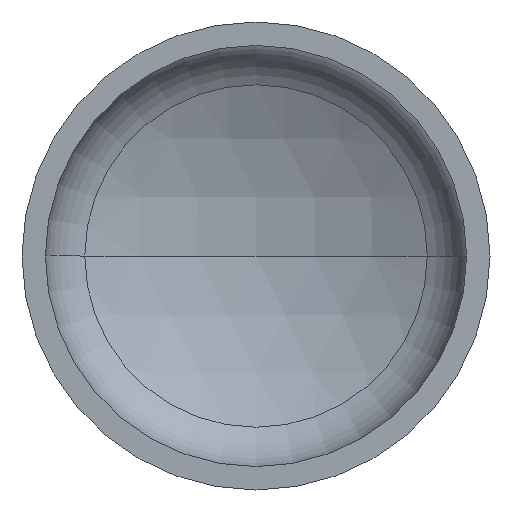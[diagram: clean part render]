
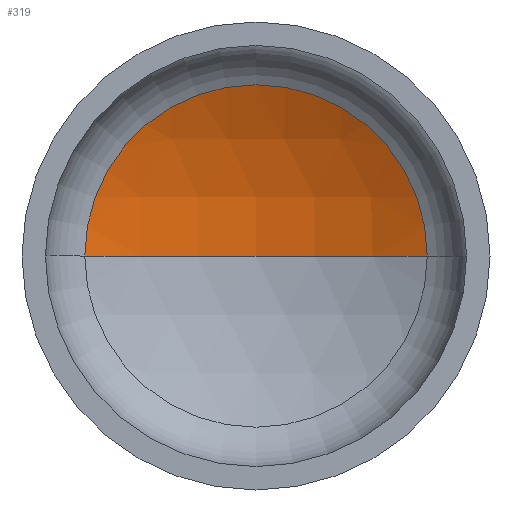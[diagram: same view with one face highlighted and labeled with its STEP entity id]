
A CAD part, front view. The second image highlights one B-rep face of the part: STEP entity #319.
In plain terms, the highlighted spherical face has radius 1600 mm.
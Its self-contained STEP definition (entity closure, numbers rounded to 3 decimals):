
#2 = AXIS2_PLACEMENT_3D ( 'NONE', #261, #167, #365 ) ;
#3 = VERTEX_POINT ( 'NONE', #256 ) ;
#11 = DIRECTION ( 'NONE',  ( -1., 0., 0. ) ) ;
#18 = EDGE_LOOP ( 'NONE', ( #79, #42, #28 ) ) ;
#27 = DIRECTION ( 'NONE',  ( 0., 0., -1. ) ) ;
#28 = ORIENTED_EDGE ( 'NONE', *, *, #118, .T. ) ;
#36 = AXIS2_PLACEMENT_3D ( 'NONE', #298, #98, #156 ) ;
#42 = ORIENTED_EDGE ( 'NONE', *, *, #122, .T. ) ;
#44 = AXIS2_PLACEMENT_3D ( 'NONE', #407, #27, #11 ) ;
#48 = AXIS2_PLACEMENT_3D ( 'NONE', #366, #233, #385 ) ;
#69 = SPHERICAL_SURFACE ( 'NONE', #2, 1600. ) ;
#79 = ORIENTED_EDGE ( 'NONE', *, *, #124, .F. ) ;
#98 = DIRECTION ( 'NONE',  ( 0., 0., 1. ) ) ;
#106 = VERTEX_POINT ( 'NONE', #290 ) ;
#118 = EDGE_CURVE ( 'NONE', #123, #106, #157, .T. ) ;
#122 = EDGE_CURVE ( 'NONE', #3, #123, #222, .T. ) ;
#123 = VERTEX_POINT ( 'NONE', #201 ) ;
#124 = EDGE_CURVE ( 'NONE', #3, #106, #401, .T. ) ;
#156 = DIRECTION ( 'NONE',  ( 1., 0., 0. ) ) ;
#157 = CIRCLE ( 'NONE', #48, 731.783 ) ;
#167 = DIRECTION ( 'NONE',  ( 0., 0., -1. ) ) ;
#201 = CARTESIAN_POINT ( 'NONE',  ( 731.783, 375.677, 0. ) ) ;
#222 = CIRCLE ( 'NONE', #44, 1600. ) ;
#233 = DIRECTION ( 'NONE',  ( 0., -1., 0. ) ) ;
#256 = CARTESIAN_POINT ( 'NONE',  ( 0., 552.83, 0. ) ) ;
#261 = CARTESIAN_POINT ( 'NONE',  ( 0., -1047.17, 0. ) ) ;
#290 = CARTESIAN_POINT ( 'NONE',  ( -731.783, 375.677, 0. ) ) ;
#298 = CARTESIAN_POINT ( 'NONE',  ( 0., -1047.17, 0. ) ) ;
#316 = FACE_OUTER_BOUND ( 'NONE', #18, .T. ) ;
#319 = ADVANCED_FACE ( 'NONE', ( #316 ), #69, .F. ) ;
#365 = DIRECTION ( 'NONE',  ( -1., 0., 0. ) ) ;
#366 = CARTESIAN_POINT ( 'NONE',  ( 0., 375.677, 0. ) ) ;
#385 = DIRECTION ( 'NONE',  ( 1., 0., 0. ) ) ;
#401 = CIRCLE ( 'NONE', #36, 1600. ) ;
#407 = CARTESIAN_POINT ( 'NONE',  ( 0., -1047.17, 0. ) ) ;
